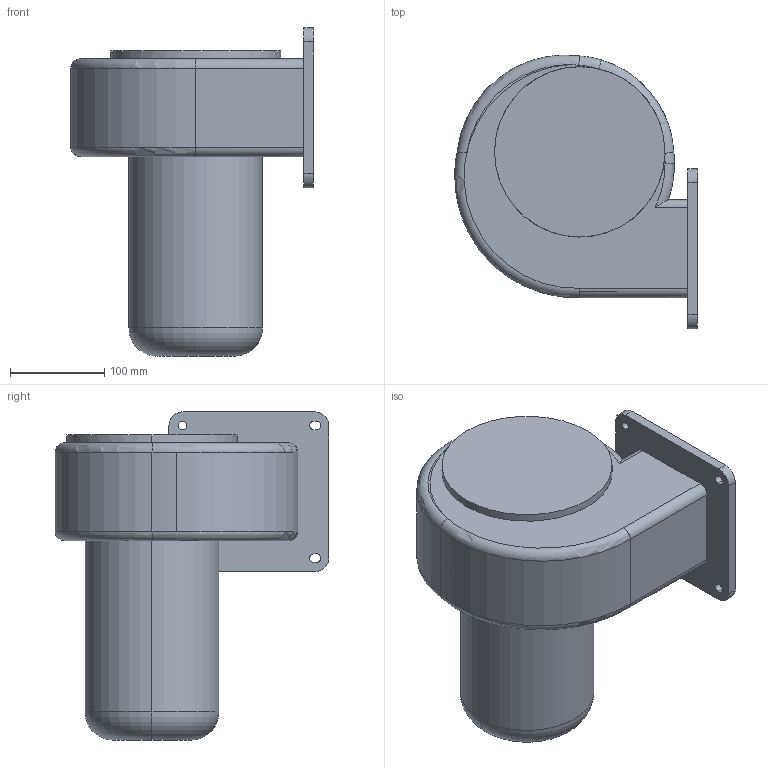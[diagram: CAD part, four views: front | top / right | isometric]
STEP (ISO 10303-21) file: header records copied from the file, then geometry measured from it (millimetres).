
FILE_DESCRIPTION (( 'STEP AP203' ), '1' );
FILE_NAME ('400.STEP', '2019-05-09T03:30:33', ( 'User' ), ( 'www.dadighost.com' ), 'SwSTEP 2.0', 'SolidWorks 2014', '' );
FILE_SCHEMA (( 'CONFIG_CONTROL_DESIGN' ));
Length unit declared in the file: millimetre
Products named in the file (1): 400
Bounding box: 257.88 x 290.94 x 349 mm (x, y, z)
Volume: 8429999.4 mm3; surface area: 361115.8 mm2
Topology: 1 solids, 1 shells, 66 faces, 173 edges, 112 vertices
Faces by surface type: cylinder 30, plane 21, torus 14, bspline 1
Entity records: 2844 total; most frequent: CARTESIAN_POINT 1095, DIRECTION 361, ORIENTED_EDGE 346, EDGE_CURVE 173, AXIS2_PLACEMENT_3D 143, VERTEX_POINT 112, CIRCLE 77, EDGE_LOOP 77
